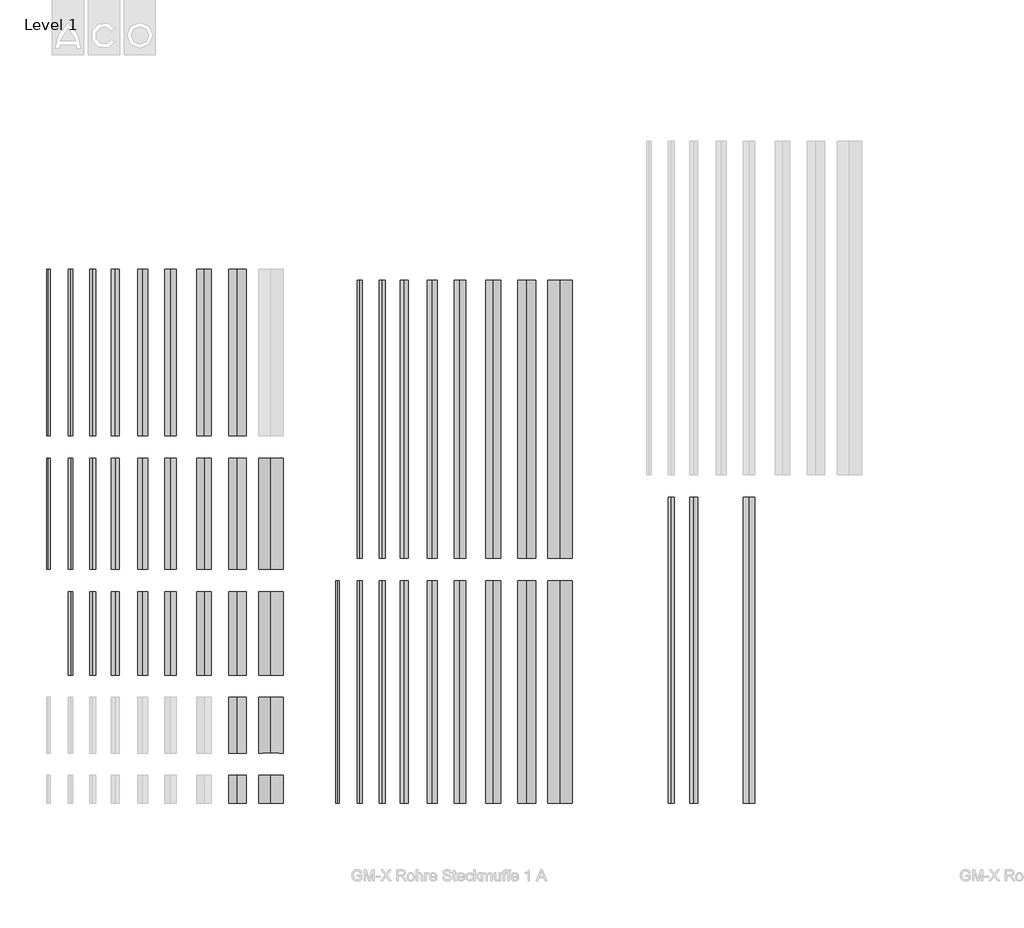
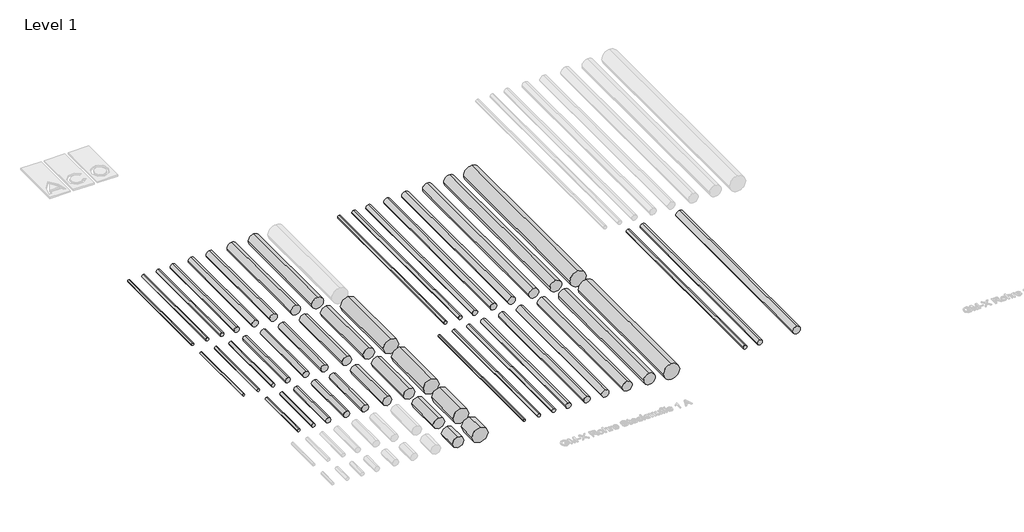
# One storey, part 4 of 7: 49 pipe segments.
"""IFC4 building model written with IfcOpenShell, lengths in millimetres."""

from ifc_helpers import new_model, si_unit, point, frame, frame_2d, origin, place, context, project, spatial, circle_curve, trimmed, segment, composite_curve, outline, extrude, element, save

model = new_model("IFC4")

# Units and contexts
model_context = context("Model", 3, world=origin())
ifc_project = project(units=[si_unit("LENGTHUNIT", "METRE", prefix="MILLI")], contexts=[model_context])

# Site, building, storey
site = spatial("IfcSite", under=ifc_project)
building = spatial("IfcBuilding", under=site)
storey = spatial("IfcBuildingStorey", under=building, Name="Level 1", Elevation=0.0)

# Pipe segments
placement = place(None, origin())
element("IfcPipeSegment", 1, ObjectType="GM-X pipe complex", at=placement, inside=storey, context=model_context, shape_type="SweptSolid", body=[
    extrude(outline(composite_curve([segment(trimmed(circle_curve(frame_2d((0.0, 2200.0)), 79.5), [point((0.0, 2279.5))], [point((79.5, 2200.0))], False, "CARTESIAN"), True, "CONTINUOUS"), segment(trimmed(circle_curve(frame_2d((0.0, 2200.0)), 79.5), [point((79.5, 2200.0))], [point((0.0, 2120.5))], False, "CARTESIAN"), True, "CONTINUOUS"), segment(trimmed(circle_curve(frame_2d((0.0, 2200.0)), 79.5), [point((0.0, 2120.5))], [point((-79.5, 2200.0))], False, "CARTESIAN"), True, "CONTINUOUS"), segment(trimmed(circle_curve(frame_2d((0.0, 2200.0)), 79.5), [point((-79.5, 2200.0))], [point((0.0, 2279.5))], False, "CARTESIAN"), True, "CONTINUOUS")], self_intersect=False)), frame((0.0, 0.0, 0.0), z_axis=(0.0, 1.0, 0.0), x_axis=(0.0, 0.0, 1.0)), (0.0, 0.0, 1.0), 250.0),
])
element("IfcPipeSegment", 2, ObjectType="GM-X pipe complex", at=placement, inside=storey, context=model_context, shape_type="SweptSolid", body=[
    extrude(outline(composite_curve([segment(trimmed(circle_curve(frame_2d((0.0, 2500.0)), 109.5), [point((0.0, 2609.5))], [point((109.5, 2500.0))], False, "CARTESIAN"), True, "CONTINUOUS"), segment(trimmed(circle_curve(frame_2d((0.0, 2500.0)), 109.5), [point((109.5, 2500.0))], [point((0.0, 2390.5))], False, "CARTESIAN"), True, "CONTINUOUS"), segment(trimmed(circle_curve(frame_2d((0.0, 2500.0)), 109.5), [point((0.0, 2390.5))], [point((-109.5, 2500.0))], False, "CARTESIAN"), True, "CONTINUOUS"), segment(trimmed(circle_curve(frame_2d((0.0, 2500.0)), 109.5), [point((-109.5, 2500.0))], [point((0.0, 2609.5))], False, "CARTESIAN"), True, "CONTINUOUS")], self_intersect=False)), frame((0.0, 0.0, 0.0), z_axis=(0.0, 1.0, 0.0), x_axis=(0.0, 0.0, 1.0)), (0.0, 0.0, 1.0), 250.0),
])
element("IfcPipeSegment", 3, ObjectType="GM-X pipe complex", at=placement, inside=storey, context=model_context, shape_type="SweptSolid", body=[
    extrude(outline(composite_curve([segment(trimmed(circle_curve(frame_2d((0.0, 2200.0)), 79.5), [point((0.0, 2279.5))], [point((79.5, 2200.0))], False, "CARTESIAN"), True, "CONTINUOUS"), segment(trimmed(circle_curve(frame_2d((0.0, 2200.0)), 79.5), [point((79.5, 2200.0))], [point((0.0, 2120.5))], False, "CARTESIAN"), True, "CONTINUOUS"), segment(trimmed(circle_curve(frame_2d((0.0, 2200.0)), 79.5), [point((0.0, 2120.5))], [point((-79.5, 2200.0))], False, "CARTESIAN"), True, "CONTINUOUS"), segment(trimmed(circle_curve(frame_2d((0.0, 2200.0)), 79.5), [point((-79.5, 2200.0))], [point((0.0, 2279.5))], False, "CARTESIAN"), True, "CONTINUOUS")], self_intersect=False)), frame((0.0, 450.0, 0.0), z_axis=(0.0, 1.0, 0.0), x_axis=(0.0, 0.0, 1.0)), (0.0, 0.0, 1.0), 500.0),
])
element("IfcPipeSegment", 4, ObjectType="GM-X pipe complex", at=placement, inside=storey, context=model_context, shape_type="SweptSolid", body=[
    extrude(outline(composite_curve([segment(trimmed(circle_curve(frame_2d((0.0, 2500.0)), 109.5), [point((0.0, 2609.5))], [point((109.5, 2500.0))], False, "CARTESIAN"), True, "CONTINUOUS"), segment(trimmed(circle_curve(frame_2d((0.0, 2500.0)), 109.5), [point((109.5, 2500.0))], [point((0.0, 2390.5))], False, "CARTESIAN"), True, "CONTINUOUS"), segment(trimmed(circle_curve(frame_2d((0.0, 2500.0)), 109.5), [point((0.0, 2390.5))], [point((-109.5, 2500.0))], False, "CARTESIAN"), True, "CONTINUOUS"), segment(trimmed(circle_curve(frame_2d((0.0, 2500.0)), 109.5), [point((-109.5, 2500.0))], [point((0.0, 2609.5))], False, "CARTESIAN"), True, "CONTINUOUS")], self_intersect=False)), frame((0.0, 450.0, 0.0), z_axis=(0.0, 1.0, 0.0), x_axis=(0.0, 0.0, 1.0)), (0.0, 0.0, 1.0), 500.0),
])
element("IfcPipeSegment", 5, ObjectType="GM-X pipe complex", at=placement, inside=storey, context=model_context, shape_type="SweptSolid", body=[
    extrude(outline(composite_curve([segment(trimmed(circle_curve(frame_2d((0.0, 700.0)), 21.5), [point((0.0, 721.5))], [point((21.5, 700.0))], False, "CARTESIAN"), True, "CONTINUOUS"), segment(trimmed(circle_curve(frame_2d((0.0, 700.0)), 21.5), [point((21.5, 700.0))], [point((0.0, 678.5))], False, "CARTESIAN"), True, "CONTINUOUS"), segment(trimmed(circle_curve(frame_2d((0.0, 700.0)), 21.5), [point((0.0, 678.5))], [point((-21.5, 700.0))], False, "CARTESIAN"), True, "CONTINUOUS"), segment(trimmed(circle_curve(frame_2d((0.0, 700.0)), 21.5), [point((-21.5, 700.0))], [point((0.0, 721.5))], False, "CARTESIAN"), True, "CONTINUOUS")], self_intersect=False)), frame((0.0, 1150.0, 0.0), z_axis=(0.0, 1.0, 0.0), x_axis=(0.0, 0.0, 1.0)), (0.0, 0.0, 1.0), 750.0),
])
element("IfcPipeSegment", 6, ObjectType="GM-X pipe complex", at=placement, inside=storey, context=model_context, shape_type="SweptSolid", body=[
    extrude(outline(composite_curve([segment(trimmed(circle_curve(frame_2d((0.0, 900.0)), 26.5), [point((0.0, 926.5))], [point((26.5, 900.0))], False, "CARTESIAN"), True, "CONTINUOUS"), segment(trimmed(circle_curve(frame_2d((0.0, 900.0)), 26.5), [point((26.5, 900.0))], [point((0.0, 873.5))], False, "CARTESIAN"), True, "CONTINUOUS"), segment(trimmed(circle_curve(frame_2d((0.0, 900.0)), 26.5), [point((0.0, 873.5))], [point((-26.5, 900.0))], False, "CARTESIAN"), True, "CONTINUOUS"), segment(trimmed(circle_curve(frame_2d((0.0, 900.0)), 26.5), [point((-26.5, 900.0))], [point((0.0, 926.5))], False, "CARTESIAN"), True, "CONTINUOUS")], self_intersect=False)), frame((0.0, 1150.0, 0.0), z_axis=(0.0, 1.0, 0.0), x_axis=(0.0, 0.0, 1.0)), (0.0, 0.0, 1.0), 750.0),
])
element("IfcPipeSegment", 7, ObjectType="GM-X pipe complex", at=placement, inside=storey, context=model_context, shape_type="SweptSolid", body=[
    extrude(outline(composite_curve([segment(trimmed(circle_curve(frame_2d((0.0, 1100.0)), 36.5), [point((0.0, 1136.5))], [point((36.5, 1100.0))], False, "CARTESIAN"), True, "CONTINUOUS"), segment(trimmed(circle_curve(frame_2d((0.0, 1100.0)), 36.5), [point((36.5, 1100.0))], [point((0.0, 1063.5))], False, "CARTESIAN"), True, "CONTINUOUS"), segment(trimmed(circle_curve(frame_2d((0.0, 1100.0)), 36.5), [point((0.0, 1063.5))], [point((-36.5, 1100.0))], False, "CARTESIAN"), True, "CONTINUOUS"), segment(trimmed(circle_curve(frame_2d((0.0, 1100.0)), 36.5), [point((-36.5, 1100.0))], [point((0.0, 1136.5))], False, "CARTESIAN"), True, "CONTINUOUS")], self_intersect=False)), frame((0.0, 1150.0, 0.0), z_axis=(0.0, 1.0, 0.0), x_axis=(0.0, 0.0, 1.0)), (0.0, 0.0, 1.0), 750.0),
])
element("IfcPipeSegment", 8, ObjectType="GM-X pipe complex", at=placement, inside=storey, context=model_context, shape_type="SweptSolid", body=[
    extrude(outline(composite_curve([segment(trimmed(circle_curve(frame_2d((0.0, 1350.0)), 44.5), [point((0.0, 1394.5))], [point((44.5, 1350.0))], False, "CARTESIAN"), True, "CONTINUOUS"), segment(trimmed(circle_curve(frame_2d((0.0, 1350.0)), 44.5), [point((44.5, 1350.0))], [point((0.0, 1305.5))], False, "CARTESIAN"), True, "CONTINUOUS"), segment(trimmed(circle_curve(frame_2d((0.0, 1350.0)), 44.5), [point((0.0, 1305.5))], [point((-44.5, 1350.0))], False, "CARTESIAN"), True, "CONTINUOUS"), segment(trimmed(circle_curve(frame_2d((0.0, 1350.0)), 44.5), [point((-44.5, 1350.0))], [point((0.0, 1394.5))], False, "CARTESIAN"), True, "CONTINUOUS")], self_intersect=False)), frame((0.0, 1150.0, 0.0), z_axis=(0.0, 1.0, 0.0), x_axis=(0.0, 0.0, 1.0)), (0.0, 0.0, 1.0), 750.0),
])
element("IfcPipeSegment", 9, ObjectType="GM-X pipe complex", at=placement, inside=storey, context=model_context, shape_type="SweptSolid", body=[
    extrude(outline(composite_curve([segment(trimmed(circle_curve(frame_2d((0.0, 1600.0)), 51.5), [point((0.0, 1651.5))], [point((51.5, 1600.0))], False, "CARTESIAN"), True, "CONTINUOUS"), segment(trimmed(circle_curve(frame_2d((0.0, 1600.0)), 51.5), [point((51.5, 1600.0))], [point((0.0, 1548.5))], False, "CARTESIAN"), True, "CONTINUOUS"), segment(trimmed(circle_curve(frame_2d((0.0, 1600.0)), 51.5), [point((0.0, 1548.5))], [point((-51.5, 1600.0))], False, "CARTESIAN"), True, "CONTINUOUS"), segment(trimmed(circle_curve(frame_2d((0.0, 1600.0)), 51.5), [point((-51.5, 1600.0))], [point((0.0, 1651.5))], False, "CARTESIAN"), True, "CONTINUOUS")], self_intersect=False)), frame((0.0, 1150.0, 0.0), z_axis=(0.0, 1.0, 0.0), x_axis=(0.0, 0.0, 1.0)), (0.0, 0.0, 1.0), 750.0),
])
element("IfcPipeSegment", 10, ObjectType="GM-X pipe complex", at=placement, inside=storey, context=model_context, shape_type="SweptSolid", body=[
    extrude(outline(composite_curve([segment(trimmed(circle_curve(frame_2d((0.0, 1900.0)), 66.5), [point((0.0, 1966.5))], [point((66.5, 1900.0))], False, "CARTESIAN"), True, "CONTINUOUS"), segment(trimmed(circle_curve(frame_2d((0.0, 1900.0)), 66.5), [point((66.5, 1900.0))], [point((0.0, 1833.5))], False, "CARTESIAN"), True, "CONTINUOUS"), segment(trimmed(circle_curve(frame_2d((0.0, 1900.0)), 66.5), [point((0.0, 1833.5))], [point((-66.5, 1900.0))], False, "CARTESIAN"), True, "CONTINUOUS"), segment(trimmed(circle_curve(frame_2d((0.0, 1900.0)), 66.5), [point((-66.5, 1900.0))], [point((0.0, 1966.5))], False, "CARTESIAN"), True, "CONTINUOUS")], self_intersect=False)), frame((0.0, 1150.0, 0.0), z_axis=(0.0, 1.0, 0.0), x_axis=(0.0, 0.0, 1.0)), (0.0, 0.0, 1.0), 750.0),
])
element("IfcPipeSegment", 11, ObjectType="GM-X pipe complex", at=placement, inside=storey, context=model_context, shape_type="SweptSolid", body=[
    extrude(outline(composite_curve([segment(trimmed(circle_curve(frame_2d((0.0, 2200.0)), 79.5), [point((0.0, 2279.5))], [point((79.5, 2200.0))], False, "CARTESIAN"), True, "CONTINUOUS"), segment(trimmed(circle_curve(frame_2d((0.0, 2200.0)), 79.5), [point((79.5, 2200.0))], [point((0.0, 2120.5))], False, "CARTESIAN"), True, "CONTINUOUS"), segment(trimmed(circle_curve(frame_2d((0.0, 2200.0)), 79.5), [point((0.0, 2120.5))], [point((-79.5, 2200.0))], False, "CARTESIAN"), True, "CONTINUOUS"), segment(trimmed(circle_curve(frame_2d((0.0, 2200.0)), 79.5), [point((-79.5, 2200.0))], [point((0.0, 2279.5))], False, "CARTESIAN"), True, "CONTINUOUS")], self_intersect=False)), frame((0.0, 1150.0, 0.0), z_axis=(0.0, 1.0, 0.0), x_axis=(0.0, 0.0, 1.0)), (0.0, 0.0, 1.0), 750.0),
])
element("IfcPipeSegment", 12, ObjectType="GM-X pipe complex", at=placement, inside=storey, context=model_context, shape_type="SweptSolid", body=[
    extrude(outline(composite_curve([segment(trimmed(circle_curve(frame_2d((0.0, 2500.0)), 109.5), [point((0.0, 2609.5))], [point((109.5, 2500.0))], False, "CARTESIAN"), True, "CONTINUOUS"), segment(trimmed(circle_curve(frame_2d((0.0, 2500.0)), 109.5), [point((109.5, 2500.0))], [point((0.0, 2390.5))], False, "CARTESIAN"), True, "CONTINUOUS"), segment(trimmed(circle_curve(frame_2d((0.0, 2500.0)), 109.5), [point((0.0, 2390.5))], [point((-109.5, 2500.0))], False, "CARTESIAN"), True, "CONTINUOUS"), segment(trimmed(circle_curve(frame_2d((0.0, 2500.0)), 109.5), [point((-109.5, 2500.0))], [point((0.0, 2609.5))], False, "CARTESIAN"), True, "CONTINUOUS")], self_intersect=False)), frame((0.0, 1150.0, 0.0), z_axis=(0.0, 1.0, 0.0), x_axis=(0.0, 0.0, 1.0)), (0.0, 0.0, 1.0), 750.0),
])
element("IfcPipeSegment", 13, ObjectType="GM-X pipe complex", at=placement, inside=storey, context=model_context, shape_type="SweptSolid", body=[
    extrude(outline(composite_curve([segment(trimmed(circle_curve(frame_2d((0.0, 700.0)), 21.5), [point((0.0, 721.5))], [point((21.5, 700.0))], False, "CARTESIAN"), True, "CONTINUOUS"), segment(trimmed(circle_curve(frame_2d((0.0, 700.0)), 21.5), [point((21.5, 700.0))], [point((0.0, 678.5))], False, "CARTESIAN"), True, "CONTINUOUS"), segment(trimmed(circle_curve(frame_2d((0.0, 700.0)), 21.5), [point((0.0, 678.5))], [point((-21.5, 700.0))], False, "CARTESIAN"), True, "CONTINUOUS"), segment(trimmed(circle_curve(frame_2d((0.0, 700.0)), 21.5), [point((-21.5, 700.0))], [point((0.0, 721.5))], False, "CARTESIAN"), True, "CONTINUOUS")], self_intersect=False)), frame((0.0, 2100.0, 0.0), z_axis=(0.0, 1.0, 0.0), x_axis=(0.0, 0.0, 1.0)), (0.0, 0.0, 1.0), 1000.0),
])
element("IfcPipeSegment", 14, ObjectType="GM-X pipe complex", at=placement, inside=storey, context=model_context, shape_type="SweptSolid", body=[
    extrude(outline(composite_curve([segment(trimmed(circle_curve(frame_2d((0.0, 900.0)), 26.5), [point((0.0, 926.5))], [point((26.5, 900.0))], False, "CARTESIAN"), True, "CONTINUOUS"), segment(trimmed(circle_curve(frame_2d((0.0, 900.0)), 26.5), [point((26.5, 900.0))], [point((0.0, 873.5))], False, "CARTESIAN"), True, "CONTINUOUS"), segment(trimmed(circle_curve(frame_2d((0.0, 900.0)), 26.5), [point((0.0, 873.5))], [point((-26.5, 900.0))], False, "CARTESIAN"), True, "CONTINUOUS"), segment(trimmed(circle_curve(frame_2d((0.0, 900.0)), 26.5), [point((-26.5, 900.0))], [point((0.0, 926.5))], False, "CARTESIAN"), True, "CONTINUOUS")], self_intersect=False)), frame((0.0, 2100.0, 0.0), z_axis=(0.0, 1.0, 0.0), x_axis=(0.0, 0.0, 1.0)), (0.0, 0.0, 1.0), 1000.0),
])
element("IfcPipeSegment", 15, ObjectType="GM-X pipe complex", at=placement, inside=storey, context=model_context, shape_type="SweptSolid", body=[
    extrude(outline(composite_curve([segment(trimmed(circle_curve(frame_2d((0.0, 1100.0)), 36.5), [point((0.0, 1136.5))], [point((36.5, 1100.0))], False, "CARTESIAN"), True, "CONTINUOUS"), segment(trimmed(circle_curve(frame_2d((0.0, 1100.0)), 36.5), [point((36.5, 1100.0))], [point((0.0, 1063.5))], False, "CARTESIAN"), True, "CONTINUOUS"), segment(trimmed(circle_curve(frame_2d((0.0, 1100.0)), 36.5), [point((0.0, 1063.5))], [point((-36.5, 1100.0))], False, "CARTESIAN"), True, "CONTINUOUS"), segment(trimmed(circle_curve(frame_2d((0.0, 1100.0)), 36.5), [point((-36.5, 1100.0))], [point((0.0, 1136.5))], False, "CARTESIAN"), True, "CONTINUOUS")], self_intersect=False)), frame((0.0, 2100.0, 0.0), z_axis=(0.0, 1.0, 0.0), x_axis=(0.0, 0.0, 1.0)), (0.0, 0.0, 1.0), 1000.0),
])
element("IfcPipeSegment", 16, ObjectType="GM-X pipe complex", at=placement, inside=storey, context=model_context, shape_type="SweptSolid", body=[
    extrude(outline(composite_curve([segment(trimmed(circle_curve(frame_2d((0.0, 1350.0)), 44.5), [point((0.0, 1394.5))], [point((44.5, 1350.0))], False, "CARTESIAN"), True, "CONTINUOUS"), segment(trimmed(circle_curve(frame_2d((0.0, 1350.0)), 44.5), [point((44.5, 1350.0))], [point((0.0, 1305.5))], False, "CARTESIAN"), True, "CONTINUOUS"), segment(trimmed(circle_curve(frame_2d((0.0, 1350.0)), 44.5), [point((0.0, 1305.5))], [point((-44.5, 1350.0))], False, "CARTESIAN"), True, "CONTINUOUS"), segment(trimmed(circle_curve(frame_2d((0.0, 1350.0)), 44.5), [point((-44.5, 1350.0))], [point((0.0, 1394.5))], False, "CARTESIAN"), True, "CONTINUOUS")], self_intersect=False)), frame((0.0, 2100.0, 0.0), z_axis=(0.0, 1.0, 0.0), x_axis=(0.0, 0.0, 1.0)), (0.0, 0.0, 1.0), 1000.0),
])
element("IfcPipeSegment", 17, ObjectType="GM-X pipe complex", at=placement, inside=storey, context=model_context, shape_type="SweptSolid", body=[
    extrude(outline(composite_curve([segment(trimmed(circle_curve(frame_2d((0.0, 1600.0)), 51.5), [point((0.0, 1651.5))], [point((51.5, 1600.0))], False, "CARTESIAN"), True, "CONTINUOUS"), segment(trimmed(circle_curve(frame_2d((0.0, 1600.0)), 51.5), [point((51.5, 1600.0))], [point((0.0, 1548.5))], False, "CARTESIAN"), True, "CONTINUOUS"), segment(trimmed(circle_curve(frame_2d((0.0, 1600.0)), 51.5), [point((0.0, 1548.5))], [point((-51.5, 1600.0))], False, "CARTESIAN"), True, "CONTINUOUS"), segment(trimmed(circle_curve(frame_2d((0.0, 1600.0)), 51.5), [point((-51.5, 1600.0))], [point((0.0, 1651.5))], False, "CARTESIAN"), True, "CONTINUOUS")], self_intersect=False)), frame((0.0, 2100.0, 0.0), z_axis=(0.0, 1.0, 0.0), x_axis=(0.0, 0.0, 1.0)), (0.0, 0.0, 1.0), 1000.0),
])
element("IfcPipeSegment", 18, ObjectType="GM-X pipe complex", at=placement, inside=storey, context=model_context, shape_type="SweptSolid", body=[
    extrude(outline(composite_curve([segment(trimmed(circle_curve(frame_2d((0.0, 1900.0)), 66.5), [point((0.0, 1966.5))], [point((66.5, 1900.0))], False, "CARTESIAN"), True, "CONTINUOUS"), segment(trimmed(circle_curve(frame_2d((0.0, 1900.0)), 66.5), [point((66.5, 1900.0))], [point((0.0, 1833.5))], False, "CARTESIAN"), True, "CONTINUOUS"), segment(trimmed(circle_curve(frame_2d((0.0, 1900.0)), 66.5), [point((0.0, 1833.5))], [point((-66.5, 1900.0))], False, "CARTESIAN"), True, "CONTINUOUS"), segment(trimmed(circle_curve(frame_2d((0.0, 1900.0)), 66.5), [point((-66.5, 1900.0))], [point((0.0, 1966.5))], False, "CARTESIAN"), True, "CONTINUOUS")], self_intersect=False)), frame((0.0, 2100.0, 0.0), z_axis=(0.0, 1.0, 0.0), x_axis=(0.0, 0.0, 1.0)), (0.0, 0.0, 1.0), 1000.0),
])
element("IfcPipeSegment", 19, ObjectType="GM-X pipe complex", at=placement, inside=storey, context=model_context, shape_type="SweptSolid", body=[
    extrude(outline(composite_curve([segment(trimmed(circle_curve(frame_2d((0.0, 2200.0)), 79.5), [point((0.0, 2279.5))], [point((79.5, 2200.0))], False, "CARTESIAN"), True, "CONTINUOUS"), segment(trimmed(circle_curve(frame_2d((0.0, 2200.0)), 79.5), [point((79.5, 2200.0))], [point((0.0, 2120.5))], False, "CARTESIAN"), True, "CONTINUOUS"), segment(trimmed(circle_curve(frame_2d((0.0, 2200.0)), 79.5), [point((0.0, 2120.5))], [point((-79.5, 2200.0))], False, "CARTESIAN"), True, "CONTINUOUS"), segment(trimmed(circle_curve(frame_2d((0.0, 2200.0)), 79.5), [point((-79.5, 2200.0))], [point((0.0, 2279.5))], False, "CARTESIAN"), True, "CONTINUOUS")], self_intersect=False)), frame((0.0, 2100.0, 0.0), z_axis=(0.0, 1.0, 0.0), x_axis=(0.0, 0.0, 1.0)), (0.0, 0.0, 1.0), 1000.0),
])
element("IfcPipeSegment", 20, ObjectType="GM-X pipe complex", at=placement, inside=storey, context=model_context, shape_type="SweptSolid", body=[
    extrude(outline(composite_curve([segment(trimmed(circle_curve(frame_2d((0.0, 2500.0)), 109.5), [point((0.0, 2609.5))], [point((109.5, 2500.0))], False, "CARTESIAN"), True, "CONTINUOUS"), segment(trimmed(circle_curve(frame_2d((0.0, 2500.0)), 109.5), [point((109.5, 2500.0))], [point((0.0, 2390.5))], False, "CARTESIAN"), True, "CONTINUOUS"), segment(trimmed(circle_curve(frame_2d((0.0, 2500.0)), 109.5), [point((0.0, 2390.5))], [point((-109.5, 2500.0))], False, "CARTESIAN"), True, "CONTINUOUS"), segment(trimmed(circle_curve(frame_2d((0.0, 2500.0)), 109.5), [point((-109.5, 2500.0))], [point((0.0, 2609.5))], False, "CARTESIAN"), True, "CONTINUOUS")], self_intersect=False)), frame((0.0, 2100.0, 0.0), z_axis=(0.0, 1.0, 0.0), x_axis=(0.0, 0.0, 1.0)), (0.0, 0.0, 1.0), 1000.0),
])
element("IfcPipeSegment", 21, ObjectType="GM-X pipe complex", at=placement, inside=storey, context=model_context, shape_type="SweptSolid", body=[
    extrude(outline(composite_curve([segment(trimmed(circle_curve(frame_2d((0.0, 500.0)), 16.0), [point((0.0, 516.0))], [point((16.0, 500.0))], False, "CARTESIAN"), True, "CONTINUOUS"), segment(trimmed(circle_curve(frame_2d((0.0, 500.0)), 16.0), [point((16.0, 500.0))], [point((0.0, 484.0))], False, "CARTESIAN"), True, "CONTINUOUS"), segment(trimmed(circle_curve(frame_2d((0.0, 500.0)), 16.0), [point((0.0, 484.0))], [point((-16.0, 500.0))], False, "CARTESIAN"), True, "CONTINUOUS"), segment(trimmed(circle_curve(frame_2d((0.0, 500.0)), 16.0), [point((-16.0, 500.0))], [point((0.0, 516.0))], False, "CARTESIAN"), True, "CONTINUOUS")], self_intersect=False)), frame((0.0, 2100.0, 0.0), z_axis=(0.0, 1.0, 0.0), x_axis=(0.0, 0.0, 1.0)), (0.0, 0.0, 1.0), 1000.0),
])
element("IfcPipeSegment", 22, ObjectType="GM-X pipe complex", at=placement, inside=storey, context=model_context, shape_type="SweptSolid", body=[
    extrude(outline(composite_curve([segment(trimmed(circle_curve(frame_2d((0.0, 700.0)), 21.5), [point((0.0, 721.5))], [point((21.5, 700.0))], False, "CARTESIAN"), True, "CONTINUOUS"), segment(trimmed(circle_curve(frame_2d((0.0, 700.0)), 21.5), [point((21.5, 700.0))], [point((0.0, 678.5))], False, "CARTESIAN"), True, "CONTINUOUS"), segment(trimmed(circle_curve(frame_2d((0.0, 700.0)), 21.5), [point((0.0, 678.5))], [point((-21.5, 700.0))], False, "CARTESIAN"), True, "CONTINUOUS"), segment(trimmed(circle_curve(frame_2d((0.0, 700.0)), 21.5), [point((-21.5, 700.0))], [point((0.0, 721.5))], False, "CARTESIAN"), True, "CONTINUOUS")], self_intersect=False)), frame((0.0, 3300.0, 0.0), z_axis=(0.0, 1.0, 0.0), x_axis=(0.0, 0.0, 1.0)), (0.0, 0.0, 1.0), 1500.0),
])
element("IfcPipeSegment", 23, ObjectType="GM-X pipe complex", at=placement, inside=storey, context=model_context, shape_type="SweptSolid", body=[
    extrude(outline(composite_curve([segment(trimmed(circle_curve(frame_2d((0.0, 900.0)), 26.5), [point((0.0, 926.5))], [point((26.5, 900.0))], False, "CARTESIAN"), True, "CONTINUOUS"), segment(trimmed(circle_curve(frame_2d((0.0, 900.0)), 26.5), [point((26.5, 900.0))], [point((0.0, 873.5))], False, "CARTESIAN"), True, "CONTINUOUS"), segment(trimmed(circle_curve(frame_2d((0.0, 900.0)), 26.5), [point((0.0, 873.5))], [point((-26.5, 900.0))], False, "CARTESIAN"), True, "CONTINUOUS"), segment(trimmed(circle_curve(frame_2d((0.0, 900.0)), 26.5), [point((-26.5, 900.0))], [point((0.0, 926.5))], False, "CARTESIAN"), True, "CONTINUOUS")], self_intersect=False)), frame((0.0, 3300.0, 0.0), z_axis=(0.0, 1.0, 0.0), x_axis=(0.0, 0.0, 1.0)), (0.0, 0.0, 1.0), 1500.0),
])
element("IfcPipeSegment", 24, ObjectType="GM-X pipe complex", at=placement, inside=storey, context=model_context, shape_type="SweptSolid", body=[
    extrude(outline(composite_curve([segment(trimmed(circle_curve(frame_2d((0.0, 1100.0)), 36.5), [point((0.0, 1136.5))], [point((36.5, 1100.0))], False, "CARTESIAN"), True, "CONTINUOUS"), segment(trimmed(circle_curve(frame_2d((0.0, 1100.0)), 36.5), [point((36.5, 1100.0))], [point((0.0, 1063.5))], False, "CARTESIAN"), True, "CONTINUOUS"), segment(trimmed(circle_curve(frame_2d((0.0, 1100.0)), 36.5), [point((0.0, 1063.5))], [point((-36.5, 1100.0))], False, "CARTESIAN"), True, "CONTINUOUS"), segment(trimmed(circle_curve(frame_2d((0.0, 1100.0)), 36.5), [point((-36.5, 1100.0))], [point((0.0, 1136.5))], False, "CARTESIAN"), True, "CONTINUOUS")], self_intersect=False)), frame((0.0, 3300.0, 0.0), z_axis=(0.0, 1.0, 0.0), x_axis=(0.0, 0.0, 1.0)), (0.0, 0.0, 1.0), 1500.0),
])
element("IfcPipeSegment", 25, ObjectType="GM-X pipe complex", at=placement, inside=storey, context=model_context, shape_type="SweptSolid", body=[
    extrude(outline(composite_curve([segment(trimmed(circle_curve(frame_2d((0.0, 1350.0)), 44.5), [point((0.0, 1394.5))], [point((44.5, 1350.0))], False, "CARTESIAN"), True, "CONTINUOUS"), segment(trimmed(circle_curve(frame_2d((0.0, 1350.0)), 44.5), [point((44.5, 1350.0))], [point((0.0, 1305.5))], False, "CARTESIAN"), True, "CONTINUOUS"), segment(trimmed(circle_curve(frame_2d((0.0, 1350.0)), 44.5), [point((0.0, 1305.5))], [point((-44.5, 1350.0))], False, "CARTESIAN"), True, "CONTINUOUS"), segment(trimmed(circle_curve(frame_2d((0.0, 1350.0)), 44.5), [point((-44.5, 1350.0))], [point((0.0, 1394.5))], False, "CARTESIAN"), True, "CONTINUOUS")], self_intersect=False)), frame((0.0, 3300.0, 0.0), z_axis=(0.0, 1.0, 0.0), x_axis=(0.0, 0.0, 1.0)), (0.0, 0.0, 1.0), 1500.0),
])
element("IfcPipeSegment", 26, ObjectType="GM-X pipe complex", at=placement, inside=storey, context=model_context, shape_type="SweptSolid", body=[
    extrude(outline(composite_curve([segment(trimmed(circle_curve(frame_2d((0.0, 1600.0)), 51.5), [point((0.0, 1651.5))], [point((51.5, 1600.0))], False, "CARTESIAN"), True, "CONTINUOUS"), segment(trimmed(circle_curve(frame_2d((0.0, 1600.0)), 51.5), [point((51.5, 1600.0))], [point((0.0, 1548.5))], False, "CARTESIAN"), True, "CONTINUOUS"), segment(trimmed(circle_curve(frame_2d((0.0, 1600.0)), 51.5), [point((0.0, 1548.5))], [point((-51.5, 1600.0))], False, "CARTESIAN"), True, "CONTINUOUS"), segment(trimmed(circle_curve(frame_2d((0.0, 1600.0)), 51.5), [point((-51.5, 1600.0))], [point((0.0, 1651.5))], False, "CARTESIAN"), True, "CONTINUOUS")], self_intersect=False)), frame((0.0, 3300.0, 0.0), z_axis=(0.0, 1.0, 0.0), x_axis=(0.0, 0.0, 1.0)), (0.0, 0.0, 1.0), 1500.0),
])
element("IfcPipeSegment", 27, ObjectType="GM-X pipe complex", at=placement, inside=storey, context=model_context, shape_type="SweptSolid", body=[
    extrude(outline(composite_curve([segment(trimmed(circle_curve(frame_2d((0.0, 1900.0)), 66.5), [point((0.0, 1966.5))], [point((66.5, 1900.0))], False, "CARTESIAN"), True, "CONTINUOUS"), segment(trimmed(circle_curve(frame_2d((0.0, 1900.0)), 66.5), [point((66.5, 1900.0))], [point((0.0, 1833.5))], False, "CARTESIAN"), True, "CONTINUOUS"), segment(trimmed(circle_curve(frame_2d((0.0, 1900.0)), 66.5), [point((0.0, 1833.5))], [point((-66.5, 1900.0))], False, "CARTESIAN"), True, "CONTINUOUS"), segment(trimmed(circle_curve(frame_2d((0.0, 1900.0)), 66.5), [point((-66.5, 1900.0))], [point((0.0, 1966.5))], False, "CARTESIAN"), True, "CONTINUOUS")], self_intersect=False)), frame((0.0, 3300.0, 0.0), z_axis=(0.0, 1.0, 0.0), x_axis=(0.0, 0.0, 1.0)), (0.0, 0.0, 1.0), 1500.0),
])
element("IfcPipeSegment", 28, ObjectType="GM-X pipe complex", at=placement, inside=storey, context=model_context, shape_type="SweptSolid", body=[
    extrude(outline(composite_curve([segment(trimmed(circle_curve(frame_2d((0.0, 2200.0)), 79.5), [point((0.0, 2279.5))], [point((79.5, 2200.0))], False, "CARTESIAN"), True, "CONTINUOUS"), segment(trimmed(circle_curve(frame_2d((0.0, 2200.0)), 79.5), [point((79.5, 2200.0))], [point((0.0, 2120.5))], False, "CARTESIAN"), True, "CONTINUOUS"), segment(trimmed(circle_curve(frame_2d((0.0, 2200.0)), 79.5), [point((0.0, 2120.5))], [point((-79.5, 2200.0))], False, "CARTESIAN"), True, "CONTINUOUS"), segment(trimmed(circle_curve(frame_2d((0.0, 2200.0)), 79.5), [point((-79.5, 2200.0))], [point((0.0, 2279.5))], False, "CARTESIAN"), True, "CONTINUOUS")], self_intersect=False)), frame((0.0, 3300.0, 0.0), z_axis=(0.0, 1.0, 0.0), x_axis=(0.0, 0.0, 1.0)), (0.0, 0.0, 1.0), 1500.0),
])
element("IfcPipeSegment", 29, ObjectType="GM-X pipe complex", at=placement, inside=storey, context=model_context, shape_type="SweptSolid", body=[
    extrude(outline(composite_curve([segment(trimmed(circle_curve(frame_2d((0.0, 500.0)), 16.0), [point((0.0, 516.0))], [point((16.0, 500.0))], False, "CARTESIAN"), True, "CONTINUOUS"), segment(trimmed(circle_curve(frame_2d((0.0, 500.0)), 16.0), [point((16.0, 500.0))], [point((0.0, 484.0))], False, "CARTESIAN"), True, "CONTINUOUS"), segment(trimmed(circle_curve(frame_2d((0.0, 500.0)), 16.0), [point((0.0, 484.0))], [point((-16.0, 500.0))], False, "CARTESIAN"), True, "CONTINUOUS"), segment(trimmed(circle_curve(frame_2d((0.0, 500.0)), 16.0), [point((-16.0, 500.0))], [point((0.0, 516.0))], False, "CARTESIAN"), True, "CONTINUOUS")], self_intersect=False)), frame((0.0, 3300.0, 0.0), z_axis=(0.0, 1.0, 0.0), x_axis=(0.0, 0.0, 1.0)), (0.0, 0.0, 1.0), 1500.0),
])
element("IfcPipeSegment", 30, ObjectType="GM-X pipe complex", at=placement, inside=storey, context=model_context, shape_type="SweptSolid", body=[
    extrude(outline(composite_curve([segment(trimmed(circle_curve(frame_2d((0.0, 3100.0)), 16.0), [point((0.0, 3116.0))], [point((16.0, 3100.0))], False, "CARTESIAN"), True, "CONTINUOUS"), segment(trimmed(circle_curve(frame_2d((0.0, 3100.0)), 16.0), [point((16.0, 3100.0))], [point((0.0, 3084.0))], False, "CARTESIAN"), True, "CONTINUOUS"), segment(trimmed(circle_curve(frame_2d((0.0, 3100.0)), 16.0), [point((0.0, 3084.0))], [point((-16.0, 3100.0))], False, "CARTESIAN"), True, "CONTINUOUS"), segment(trimmed(circle_curve(frame_2d((0.0, 3100.0)), 16.0), [point((-16.0, 3100.0))], [point((0.0, 3116.0))], False, "CARTESIAN"), True, "CONTINUOUS")], self_intersect=False)), frame((0.0, 0.0, 0.0), z_axis=(0.0, 1.0, 0.0), x_axis=(0.0, 0.0, 1.0)), (0.0, 0.0, 1.0), 2000.0),
])
element("IfcPipeSegment", 31, ObjectType="GM-X pipe complex", at=placement, inside=storey, context=model_context, shape_type="SweptSolid", body=[
    extrude(outline(composite_curve([segment(trimmed(circle_curve(frame_2d((0.0, 3300.0)), 21.5), [point((0.0, 3321.5))], [point((21.5, 3300.0))], False, "CARTESIAN"), True, "CONTINUOUS"), segment(trimmed(circle_curve(frame_2d((0.0, 3300.0)), 21.5), [point((21.5, 3300.0))], [point((0.0, 3278.5))], False, "CARTESIAN"), True, "CONTINUOUS"), segment(trimmed(circle_curve(frame_2d((0.0, 3300.0)), 21.5), [point((0.0, 3278.5))], [point((-21.5, 3300.0))], False, "CARTESIAN"), True, "CONTINUOUS"), segment(trimmed(circle_curve(frame_2d((0.0, 3300.0)), 21.5), [point((-21.5, 3300.0))], [point((0.0, 3321.5))], False, "CARTESIAN"), True, "CONTINUOUS")], self_intersect=False)), frame((0.0, 0.0, 0.0), z_axis=(0.0, 1.0, 0.0), x_axis=(0.0, 0.0, 1.0)), (0.0, 0.0, 1.0), 2000.0),
])
element("IfcPipeSegment", 32, ObjectType="GM-X pipe complex", at=placement, inside=storey, context=model_context, shape_type="SweptSolid", body=[
    extrude(outline(composite_curve([segment(trimmed(circle_curve(frame_2d((0.0, 3500.0)), 26.5), [point((0.0, 3526.5))], [point((26.5, 3500.0))], False, "CARTESIAN"), True, "CONTINUOUS"), segment(trimmed(circle_curve(frame_2d((0.0, 3500.0)), 26.5), [point((26.5, 3500.0))], [point((0.0, 3473.5))], False, "CARTESIAN"), True, "CONTINUOUS"), segment(trimmed(circle_curve(frame_2d((0.0, 3500.0)), 26.5), [point((0.0, 3473.5))], [point((-26.5, 3500.0))], False, "CARTESIAN"), True, "CONTINUOUS"), segment(trimmed(circle_curve(frame_2d((0.0, 3500.0)), 26.5), [point((-26.5, 3500.0))], [point((0.0, 3526.5))], False, "CARTESIAN"), True, "CONTINUOUS")], self_intersect=False)), frame((0.0, 0.0, 0.0), z_axis=(0.0, 1.0, 0.0), x_axis=(0.0, 0.0, 1.0)), (0.0, 0.0, 1.0), 2000.0),
])
element("IfcPipeSegment", 33, ObjectType="GM-X pipe complex", at=placement, inside=storey, context=model_context, shape_type="SweptSolid", body=[
    extrude(outline(composite_curve([segment(trimmed(circle_curve(frame_2d((0.0, 3700.0)), 36.5), [point((0.0, 3736.5))], [point((36.5, 3700.0))], False, "CARTESIAN"), True, "CONTINUOUS"), segment(trimmed(circle_curve(frame_2d((0.0, 3700.0)), 36.5), [point((36.5, 3700.0))], [point((0.0, 3663.5))], False, "CARTESIAN"), True, "CONTINUOUS"), segment(trimmed(circle_curve(frame_2d((0.0, 3700.0)), 36.5), [point((0.0, 3663.5))], [point((-36.5, 3700.0))], False, "CARTESIAN"), True, "CONTINUOUS"), segment(trimmed(circle_curve(frame_2d((0.0, 3700.0)), 36.5), [point((-36.5, 3700.0))], [point((0.0, 3736.5))], False, "CARTESIAN"), True, "CONTINUOUS")], self_intersect=False)), frame((0.0, 0.0, 0.0), z_axis=(0.0, 1.0, 0.0), x_axis=(0.0, 0.0, 1.0)), (0.0, 0.0, 1.0), 2000.0),
])
element("IfcPipeSegment", 34, ObjectType="GM-X pipe complex", at=placement, inside=storey, context=model_context, shape_type="SweptSolid", body=[
    extrude(outline(composite_curve([segment(trimmed(circle_curve(frame_2d((0.0, 3950.0)), 44.5), [point((0.0, 3994.5))], [point((44.5, 3950.0))], False, "CARTESIAN"), True, "CONTINUOUS"), segment(trimmed(circle_curve(frame_2d((0.0, 3950.0)), 44.5), [point((44.5, 3950.0))], [point((0.0, 3905.5))], False, "CARTESIAN"), True, "CONTINUOUS"), segment(trimmed(circle_curve(frame_2d((0.0, 3950.0)), 44.5), [point((0.0, 3905.5))], [point((-44.5, 3950.0))], False, "CARTESIAN"), True, "CONTINUOUS"), segment(trimmed(circle_curve(frame_2d((0.0, 3950.0)), 44.5), [point((-44.5, 3950.0))], [point((0.0, 3994.5))], False, "CARTESIAN"), True, "CONTINUOUS")], self_intersect=False)), frame((0.0, 0.0, 0.0), z_axis=(0.0, 1.0, 0.0), x_axis=(0.0, 0.0, 1.0)), (0.0, 0.0, 1.0), 2000.0),
])
element("IfcPipeSegment", 35, ObjectType="GM-X pipe complex", at=placement, inside=storey, context=model_context, shape_type="SweptSolid", body=[
    extrude(outline(composite_curve([segment(trimmed(circle_curve(frame_2d((0.0, 4200.0)), 51.5), [point((0.0, 4251.5))], [point((51.5, 4200.0))], False, "CARTESIAN"), True, "CONTINUOUS"), segment(trimmed(circle_curve(frame_2d((0.0, 4200.0)), 51.5), [point((51.5, 4200.0))], [point((0.0, 4148.5))], False, "CARTESIAN"), True, "CONTINUOUS"), segment(trimmed(circle_curve(frame_2d((0.0, 4200.0)), 51.5), [point((0.0, 4148.5))], [point((-51.5, 4200.0))], False, "CARTESIAN"), True, "CONTINUOUS"), segment(trimmed(circle_curve(frame_2d((0.0, 4200.0)), 51.5), [point((-51.5, 4200.0))], [point((0.0, 4251.5))], False, "CARTESIAN"), True, "CONTINUOUS")], self_intersect=False)), frame((0.0, 0.0, 0.0), z_axis=(0.0, 1.0, 0.0), x_axis=(0.0, 0.0, 1.0)), (0.0, 0.0, 1.0), 2000.0),
])
element("IfcPipeSegment", 36, ObjectType="GM-X pipe complex", at=placement, inside=storey, context=model_context, shape_type="SweptSolid", body=[
    extrude(outline(composite_curve([segment(trimmed(circle_curve(frame_2d((0.0, 4500.0)), 66.5), [point((0.0, 4566.5))], [point((66.5, 4500.0))], False, "CARTESIAN"), True, "CONTINUOUS"), segment(trimmed(circle_curve(frame_2d((0.0, 4500.0)), 66.5), [point((66.5, 4500.0))], [point((0.0, 4433.5))], False, "CARTESIAN"), True, "CONTINUOUS"), segment(trimmed(circle_curve(frame_2d((0.0, 4500.0)), 66.5), [point((0.0, 4433.5))], [point((-66.5, 4500.0))], False, "CARTESIAN"), True, "CONTINUOUS"), segment(trimmed(circle_curve(frame_2d((0.0, 4500.0)), 66.5), [point((-66.5, 4500.0))], [point((0.0, 4566.5))], False, "CARTESIAN"), True, "CONTINUOUS")], self_intersect=False)), frame((0.0, 0.0, 0.0), z_axis=(0.0, 1.0, 0.0), x_axis=(0.0, 0.0, 1.0)), (0.0, 0.0, 1.0), 2000.0),
])
element("IfcPipeSegment", 37, ObjectType="GM-X pipe complex", at=placement, inside=storey, context=model_context, shape_type="SweptSolid", body=[
    extrude(outline(composite_curve([segment(trimmed(circle_curve(frame_2d((0.0, 4800.0)), 79.5), [point((0.0, 4879.5))], [point((79.5, 4800.0))], False, "CARTESIAN"), True, "CONTINUOUS"), segment(trimmed(circle_curve(frame_2d((0.0, 4800.0)), 79.5), [point((79.5, 4800.0))], [point((0.0, 4720.5))], False, "CARTESIAN"), True, "CONTINUOUS"), segment(trimmed(circle_curve(frame_2d((0.0, 4800.0)), 79.5), [point((0.0, 4720.5))], [point((-79.5, 4800.0))], False, "CARTESIAN"), True, "CONTINUOUS"), segment(trimmed(circle_curve(frame_2d((0.0, 4800.0)), 79.5), [point((-79.5, 4800.0))], [point((0.0, 4879.5))], False, "CARTESIAN"), True, "CONTINUOUS")], self_intersect=False)), frame((0.0, 0.0, 0.0), z_axis=(0.0, 1.0, 0.0), x_axis=(0.0, 0.0, 1.0)), (0.0, 0.0, 1.0), 2000.0),
])
element("IfcPipeSegment", 38, ObjectType="GM-X pipe complex", at=placement, inside=storey, context=model_context, shape_type="SweptSolid", body=[
    extrude(outline(composite_curve([segment(trimmed(circle_curve(frame_2d((0.0, 5100.0)), 109.5), [point((0.0, 5209.5))], [point((109.5, 5100.0))], False, "CARTESIAN"), True, "CONTINUOUS"), segment(trimmed(circle_curve(frame_2d((0.0, 5100.0)), 109.5), [point((109.5, 5100.0))], [point((0.0, 4990.5))], False, "CARTESIAN"), True, "CONTINUOUS"), segment(trimmed(circle_curve(frame_2d((0.0, 5100.0)), 109.5), [point((0.0, 4990.5))], [point((-109.5, 5100.0))], False, "CARTESIAN"), True, "CONTINUOUS"), segment(trimmed(circle_curve(frame_2d((0.0, 5100.0)), 109.5), [point((-109.5, 5100.0))], [point((0.0, 5209.5))], False, "CARTESIAN"), True, "CONTINUOUS")], self_intersect=False)), frame((0.0, 0.0, 0.0), z_axis=(0.0, 1.0, 0.0), x_axis=(0.0, 0.0, 1.0)), (0.0, 0.0, 1.0), 2000.0),
])
element("IfcPipeSegment", 39, ObjectType="GM-X pipe complex", at=placement, inside=storey, context=model_context, shape_type="SweptSolid", body=[
    extrude(outline(composite_curve([segment(trimmed(circle_curve(frame_2d((0.0, 3300.0)), 21.5), [point((0.0, 3321.5))], [point((21.5, 3300.0))], False, "CARTESIAN"), True, "CONTINUOUS"), segment(trimmed(circle_curve(frame_2d((0.0, 3300.0)), 21.5), [point((21.5, 3300.0))], [point((0.0, 3278.5))], False, "CARTESIAN"), True, "CONTINUOUS"), segment(trimmed(circle_curve(frame_2d((0.0, 3300.0)), 21.5), [point((0.0, 3278.5))], [point((-21.5, 3300.0))], False, "CARTESIAN"), True, "CONTINUOUS"), segment(trimmed(circle_curve(frame_2d((0.0, 3300.0)), 21.5), [point((-21.5, 3300.0))], [point((0.0, 3321.5))], False, "CARTESIAN"), True, "CONTINUOUS")], self_intersect=False)), frame((0.0, 2200.0, 0.0), z_axis=(0.0, 1.0, 0.0), x_axis=(0.0, 0.0, 1.0)), (0.0, 0.0, 1.0), 2500.0),
])
element("IfcPipeSegment", 40, ObjectType="GM-X pipe complex", at=placement, inside=storey, context=model_context, shape_type="SweptSolid", body=[
    extrude(outline(composite_curve([segment(trimmed(circle_curve(frame_2d((0.0, 3500.0)), 26.5), [point((0.0, 3526.5))], [point((26.5, 3500.0))], False, "CARTESIAN"), True, "CONTINUOUS"), segment(trimmed(circle_curve(frame_2d((0.0, 3500.0)), 26.5), [point((26.5, 3500.0))], [point((0.0, 3473.5))], False, "CARTESIAN"), True, "CONTINUOUS"), segment(trimmed(circle_curve(frame_2d((0.0, 3500.0)), 26.5), [point((0.0, 3473.5))], [point((-26.5, 3500.0))], False, "CARTESIAN"), True, "CONTINUOUS"), segment(trimmed(circle_curve(frame_2d((0.0, 3500.0)), 26.5), [point((-26.5, 3500.0))], [point((0.0, 3526.5))], False, "CARTESIAN"), True, "CONTINUOUS")], self_intersect=False)), frame((0.0, 2200.0, 0.0), z_axis=(0.0, 1.0, 0.0), x_axis=(0.0, 0.0, 1.0)), (0.0, 0.0, 1.0), 2500.0),
])
element("IfcPipeSegment", 41, ObjectType="GM-X pipe complex", at=placement, inside=storey, context=model_context, shape_type="SweptSolid", body=[
    extrude(outline(composite_curve([segment(trimmed(circle_curve(frame_2d((0.0, 3700.0)), 36.5), [point((0.0, 3736.5))], [point((36.5, 3700.0))], False, "CARTESIAN"), True, "CONTINUOUS"), segment(trimmed(circle_curve(frame_2d((0.0, 3700.0)), 36.5), [point((36.5, 3700.0))], [point((0.0, 3663.5))], False, "CARTESIAN"), True, "CONTINUOUS"), segment(trimmed(circle_curve(frame_2d((0.0, 3700.0)), 36.5), [point((0.0, 3663.5))], [point((-36.5, 3700.0))], False, "CARTESIAN"), True, "CONTINUOUS"), segment(trimmed(circle_curve(frame_2d((0.0, 3700.0)), 36.5), [point((-36.5, 3700.0))], [point((0.0, 3736.5))], False, "CARTESIAN"), True, "CONTINUOUS")], self_intersect=False)), frame((0.0, 2200.0, 0.0), z_axis=(0.0, 1.0, 0.0), x_axis=(0.0, 0.0, 1.0)), (0.0, 0.0, 1.0), 2500.0),
])
element("IfcPipeSegment", 42, ObjectType="GM-X pipe complex", at=placement, inside=storey, context=model_context, shape_type="SweptSolid", body=[
    extrude(outline(composite_curve([segment(trimmed(circle_curve(frame_2d((0.0, 3950.0)), 44.5), [point((0.0, 3994.5))], [point((44.5, 3950.0))], False, "CARTESIAN"), True, "CONTINUOUS"), segment(trimmed(circle_curve(frame_2d((0.0, 3950.0)), 44.5), [point((44.5, 3950.0))], [point((0.0, 3905.5))], False, "CARTESIAN"), True, "CONTINUOUS"), segment(trimmed(circle_curve(frame_2d((0.0, 3950.0)), 44.5), [point((0.0, 3905.5))], [point((-44.5, 3950.0))], False, "CARTESIAN"), True, "CONTINUOUS"), segment(trimmed(circle_curve(frame_2d((0.0, 3950.0)), 44.5), [point((-44.5, 3950.0))], [point((0.0, 3994.5))], False, "CARTESIAN"), True, "CONTINUOUS")], self_intersect=False)), frame((0.0, 2200.0, 0.0), z_axis=(0.0, 1.0, 0.0), x_axis=(0.0, 0.0, 1.0)), (0.0, 0.0, 1.0), 2500.0),
])
element("IfcPipeSegment", 43, ObjectType="GM-X pipe complex", at=placement, inside=storey, context=model_context, shape_type="SweptSolid", body=[
    extrude(outline(composite_curve([segment(trimmed(circle_curve(frame_2d((0.0, 4200.0)), 51.5), [point((0.0, 4251.5))], [point((51.5, 4200.0))], False, "CARTESIAN"), True, "CONTINUOUS"), segment(trimmed(circle_curve(frame_2d((0.0, 4200.0)), 51.5), [point((51.5, 4200.0))], [point((0.0, 4148.5))], False, "CARTESIAN"), True, "CONTINUOUS"), segment(trimmed(circle_curve(frame_2d((0.0, 4200.0)), 51.5), [point((0.0, 4148.5))], [point((-51.5, 4200.0))], False, "CARTESIAN"), True, "CONTINUOUS"), segment(trimmed(circle_curve(frame_2d((0.0, 4200.0)), 51.5), [point((-51.5, 4200.0))], [point((0.0, 4251.5))], False, "CARTESIAN"), True, "CONTINUOUS")], self_intersect=False)), frame((0.0, 2200.0, 0.0), z_axis=(0.0, 1.0, 0.0), x_axis=(0.0, 0.0, 1.0)), (0.0, 0.0, 1.0), 2500.0),
])
element("IfcPipeSegment", 44, ObjectType="GM-X pipe complex", at=placement, inside=storey, context=model_context, shape_type="SweptSolid", body=[
    extrude(outline(composite_curve([segment(trimmed(circle_curve(frame_2d((0.0, 4500.0)), 66.5), [point((0.0, 4566.5))], [point((66.5, 4500.0))], False, "CARTESIAN"), True, "CONTINUOUS"), segment(trimmed(circle_curve(frame_2d((0.0, 4500.0)), 66.5), [point((66.5, 4500.0))], [point((0.0, 4433.5))], False, "CARTESIAN"), True, "CONTINUOUS"), segment(trimmed(circle_curve(frame_2d((0.0, 4500.0)), 66.5), [point((0.0, 4433.5))], [point((-66.5, 4500.0))], False, "CARTESIAN"), True, "CONTINUOUS"), segment(trimmed(circle_curve(frame_2d((0.0, 4500.0)), 66.5), [point((-66.5, 4500.0))], [point((0.0, 4566.5))], False, "CARTESIAN"), True, "CONTINUOUS")], self_intersect=False)), frame((0.0, 2200.0, 0.0), z_axis=(0.0, 1.0, 0.0), x_axis=(0.0, 0.0, 1.0)), (0.0, 0.0, 1.0), 2500.0),
])
element("IfcPipeSegment", 45, ObjectType="GM-X pipe complex", at=placement, inside=storey, context=model_context, shape_type="SweptSolid", body=[
    extrude(outline(composite_curve([segment(trimmed(circle_curve(frame_2d((0.0, 4800.0)), 79.5), [point((0.0, 4879.5))], [point((79.5, 4800.0))], False, "CARTESIAN"), True, "CONTINUOUS"), segment(trimmed(circle_curve(frame_2d((0.0, 4800.0)), 79.5), [point((79.5, 4800.0))], [point((0.0, 4720.5))], False, "CARTESIAN"), True, "CONTINUOUS"), segment(trimmed(circle_curve(frame_2d((0.0, 4800.0)), 79.5), [point((0.0, 4720.5))], [point((-79.5, 4800.0))], False, "CARTESIAN"), True, "CONTINUOUS"), segment(trimmed(circle_curve(frame_2d((0.0, 4800.0)), 79.5), [point((-79.5, 4800.0))], [point((0.0, 4879.5))], False, "CARTESIAN"), True, "CONTINUOUS")], self_intersect=False)), frame((0.0, 2200.0, 0.0), z_axis=(0.0, 1.0, 0.0), x_axis=(0.0, 0.0, 1.0)), (0.0, 0.0, 1.0), 2500.0),
])
element("IfcPipeSegment", 46, ObjectType="GM-X pipe complex", at=placement, inside=storey, context=model_context, shape_type="SweptSolid", body=[
    extrude(outline(composite_curve([segment(trimmed(circle_curve(frame_2d((0.0, 5100.0)), 109.5), [point((0.0, 5209.5))], [point((109.5, 5100.0))], False, "CARTESIAN"), True, "CONTINUOUS"), segment(trimmed(circle_curve(frame_2d((0.0, 5100.0)), 109.5), [point((109.5, 5100.0))], [point((0.0, 4990.5))], False, "CARTESIAN"), True, "CONTINUOUS"), segment(trimmed(circle_curve(frame_2d((0.0, 5100.0)), 109.5), [point((0.0, 4990.5))], [point((-109.5, 5100.0))], False, "CARTESIAN"), True, "CONTINUOUS"), segment(trimmed(circle_curve(frame_2d((0.0, 5100.0)), 109.5), [point((-109.5, 5100.0))], [point((0.0, 5209.5))], False, "CARTESIAN"), True, "CONTINUOUS")], self_intersect=False)), frame((0.0, 2200.0, 0.0), z_axis=(0.0, 1.0, 0.0), x_axis=(0.0, 0.0, 1.0)), (0.0, 0.0, 1.0), 2500.0),
])
element("IfcPipeSegment", 47, ObjectType="GM-X pipe complex", at=placement, inside=storey, context=model_context, shape_type="SweptSolid", body=[
    extrude(outline(composite_curve([segment(trimmed(circle_curve(frame_2d((0.0, 6100.0)), 26.5), [point((0.0, 6126.5))], [point((26.5, 6100.0))], False, "CARTESIAN"), True, "CONTINUOUS"), segment(trimmed(circle_curve(frame_2d((0.0, 6100.0)), 26.5), [point((26.5, 6100.0))], [point((0.0, 6073.5))], False, "CARTESIAN"), True, "CONTINUOUS"), segment(trimmed(circle_curve(frame_2d((0.0, 6100.0)), 26.5), [point((0.0, 6073.5))], [point((-26.5, 6100.0))], False, "CARTESIAN"), True, "CONTINUOUS"), segment(trimmed(circle_curve(frame_2d((0.0, 6100.0)), 26.5), [point((-26.5, 6100.0))], [point((0.0, 6126.5))], False, "CARTESIAN"), True, "CONTINUOUS")], self_intersect=False)), frame((0.0, 0.0, 0.0), z_axis=(0.0, 1.0, 0.0), x_axis=(0.0, 0.0, 1.0)), (0.0, 0.0, 1.0), 2750.0),
])
element("IfcPipeSegment", 48, ObjectType="GM-X pipe complex", at=placement, inside=storey, context=model_context, shape_type="SweptSolid", body=[
    extrude(outline(composite_curve([segment(trimmed(circle_curve(frame_2d((0.0, 6300.0)), 36.5), [point((0.0, 6336.5))], [point((36.5, 6300.0))], False, "CARTESIAN"), True, "CONTINUOUS"), segment(trimmed(circle_curve(frame_2d((0.0, 6300.0)), 36.5), [point((36.5, 6300.0))], [point((0.0, 6263.5))], False, "CARTESIAN"), True, "CONTINUOUS"), segment(trimmed(circle_curve(frame_2d((0.0, 6300.0)), 36.5), [point((0.0, 6263.5))], [point((-36.5, 6300.0))], False, "CARTESIAN"), True, "CONTINUOUS"), segment(trimmed(circle_curve(frame_2d((0.0, 6300.0)), 36.5), [point((-36.5, 6300.0))], [point((0.0, 6336.5))], False, "CARTESIAN"), True, "CONTINUOUS")], self_intersect=False)), frame((0.0, 0.0, 0.0), z_axis=(0.0, 1.0, 0.0), x_axis=(0.0, 0.0, 1.0)), (0.0, 0.0, 1.0), 2750.0),
])
element("IfcPipeSegment", 49, ObjectType="GM-X pipe complex", at=placement, inside=storey, context=model_context, shape_type="SweptSolid", body=[
    extrude(outline(composite_curve([segment(trimmed(circle_curve(frame_2d((0.0, 6800.0)), 51.5), [point((0.0, 6851.5))], [point((51.5, 6800.0))], False, "CARTESIAN"), True, "CONTINUOUS"), segment(trimmed(circle_curve(frame_2d((0.0, 6800.0)), 51.5), [point((51.5, 6800.0))], [point((0.0, 6748.5))], False, "CARTESIAN"), True, "CONTINUOUS"), segment(trimmed(circle_curve(frame_2d((0.0, 6800.0)), 51.5), [point((0.0, 6748.5))], [point((-51.5, 6800.0))], False, "CARTESIAN"), True, "CONTINUOUS"), segment(trimmed(circle_curve(frame_2d((0.0, 6800.0)), 51.5), [point((-51.5, 6800.0))], [point((0.0, 6851.5))], False, "CARTESIAN"), True, "CONTINUOUS")], self_intersect=False)), frame((0.0, 0.0, 0.0), z_axis=(0.0, 1.0, 0.0), x_axis=(0.0, 0.0, 1.0)), (0.0, 0.0, 1.0), 2750.0),
])

save(model, "model.ifc")
